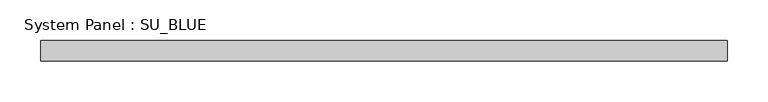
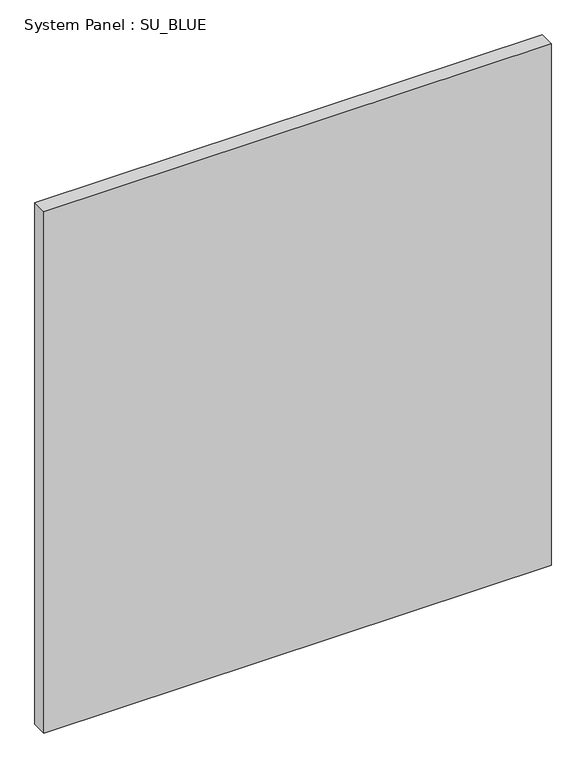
"""IFC4 building model written with IfcOpenShell, lengths in millimetres: plate geometry, System Panel : SU_BLUE."""

from ifc_helpers import new_model, si_unit, origin, origin_with_axes, place, context, project, spatial, polyline, outline, extrude, source, transform, mapped, element, save


def system_panel_su_blue_e3d46445(model_context):
    return source(origin(), model_context, "Body", "SweptSolid", [
        extrude(outline(polyline([(420.7943243, 19.05), (-420.7943243, 19.05), (-420.7943243, 44.45), (420.7943243, 44.45), (420.7943243, 19.05)])), origin_with_axes(), (0.0, 0.0, 1.0), 914.4),
    ])


if __name__ == "__main__":
    model = new_model("IFC4")
    model_context = context("Model", 3, world=origin())
    ifc_project = project(units=[si_unit("LENGTHUNIT", "METRE", prefix="MILLI")], contexts=[model_context])
    site = spatial("IfcSite", under=ifc_project)
    building = spatial("IfcBuilding", under=site)
    placement = place(None, origin())
    system_panel_su_blue_shape = system_panel_su_blue_e3d46445(model_context)
    element("IfcPlate", 1, ObjectType="System Panel : SU_BLUE", at=placement, inside=building, context=model_context, shape_type="MappedRepresentation", body=[
        mapped(system_panel_su_blue_shape, transform((0.0, 0.0, 0.0), x_axis=(1.0, 0.0, 0.0), y_axis=(0.0, 1.0, 0.0), z_axis=(0.0, 0.0, 1.0))),
    ])
    save(model, "model.ifc")
